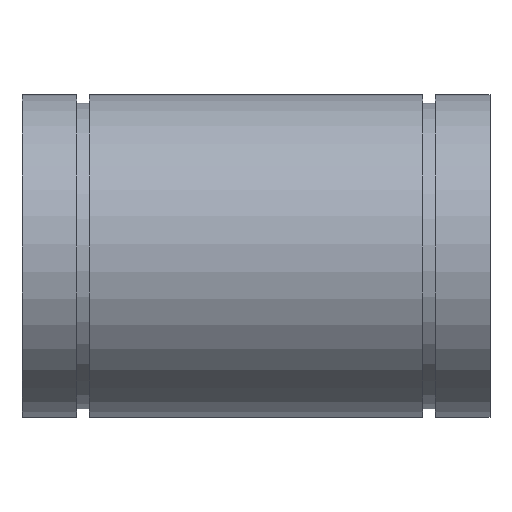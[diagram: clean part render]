
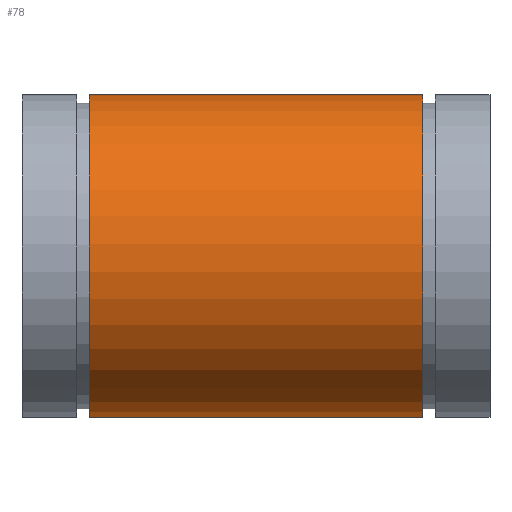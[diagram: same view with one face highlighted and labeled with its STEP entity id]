
A CAD part, front view. The second image highlights one B-rep face of the part: STEP entity #78.
In plain terms, the highlighted cylindrical face has radius 23.5 mm (diameter 47 mm), a partial arc.
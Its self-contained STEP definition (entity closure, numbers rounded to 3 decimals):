
#78 = ADVANCED_FACE( '', ( #96 ), #97, .T. );
#96 = FACE_OUTER_BOUND( '', #124, .T. );
#97 = CYLINDRICAL_SURFACE( '', #125, 23.5 );
#124 = EDGE_LOOP( '', ( #167, #168, #169, #170 ) );
#125 = AXIS2_PLACEMENT_3D( '', #171, #172, #173 );
#167 = ORIENTED_EDGE( '', *, *, #271, .T. );
#168 = ORIENTED_EDGE( '', *, *, #272, .T. );
#169 = ORIENTED_EDGE( '', *, *, #273, .F. );
#170 = ORIENTED_EDGE( '', *, *, #274, .T. );
#171 = CARTESIAN_POINT( '', ( 68., 0., 0. ) );
#172 = DIRECTION( '', ( -1., 0., 0. ) );
#173 = DIRECTION( '', ( 0., 0., -1. ) );
#271 = EDGE_CURVE( '', #317, #318, #319, .T. );
#272 = EDGE_CURVE( '', #318, #320, #321, .T. );
#273 = EDGE_CURVE( '', #322, #320, #323, .T. );
#274 = EDGE_CURVE( '', #322, #317, #324, .F. );
#317 = VERTEX_POINT( '', #383 );
#318 = VERTEX_POINT( '', #384 );
#319 = CIRCLE( '', #385, 23.5 );
#320 = VERTEX_POINT( '', #386 );
#321 = LINE( '', #387, #388 );
#322 = VERTEX_POINT( '', #389 );
#323 = CIRCLE( '', #390, 23.5 );
#324 = LINE( '', #391, #392 );
#383 = CARTESIAN_POINT( '', ( 9.8, 15.895, 17.309 ) );
#384 = CARTESIAN_POINT( '', ( 9.8, 17.309, 15.895 ) );
#385 = AXIS2_PLACEMENT_3D( '', #461, #462, #463 );
#386 = CARTESIAN_POINT( '', ( 58.2, 17.309, 15.895 ) );
#387 = CARTESIAN_POINT( '', ( 68., 17.309, 15.895 ) );
#388 = VECTOR( '', #464, 1000. );
#389 = CARTESIAN_POINT( '', ( 58.2, 15.895, 17.309 ) );
#390 = AXIS2_PLACEMENT_3D( '', #465, #466, #467 );
#391 = CARTESIAN_POINT( '', ( 68., 15.895, 17.309 ) );
#392 = VECTOR( '', #468, 1000. );
#461 = CARTESIAN_POINT( '', ( 9.8, 0., 0. ) );
#462 = DIRECTION( '', ( 1., 0., 0. ) );
#463 = DIRECTION( '', ( 0., 0., -1. ) );
#464 = DIRECTION( '', ( 1., 0., 0. ) );
#465 = CARTESIAN_POINT( '', ( 58.2, 0., 0. ) );
#466 = DIRECTION( '', ( 1., 0., 0. ) );
#467 = DIRECTION( '', ( 0., 0., -1. ) );
#468 = DIRECTION( '', ( 1., 0., 0. ) );
